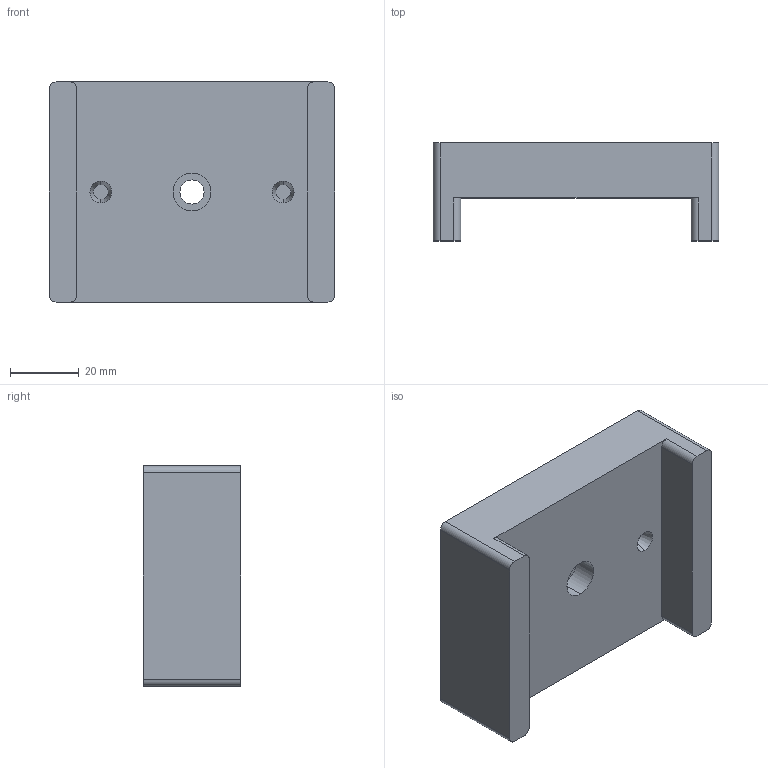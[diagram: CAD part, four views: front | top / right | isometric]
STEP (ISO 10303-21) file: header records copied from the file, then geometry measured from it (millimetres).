
FILE_DESCRIPTION (( 'STEP AP214' ), '1' );
FILE_NAME ('GM3 Press In Fixturing Design Dowel Top.STEP', '2022-03-08T20:00:37', ( '' ), ( '' ), 'SwSTEP 2.0', 'SolidWorks 2018', '' );
FILE_SCHEMA (( 'AUTOMOTIVE_DESIGN' ));
Length unit declared in the file: millimetre
Products named in the file (1): GM3 Press In Fixturing Design Dowel Top
Bounding box: 83 x 28.45 x 64 mm (x, y, z)
Volume: 96126.8 mm3; surface area: 19492.5 mm2
Topology: 1 solids, 1 shells, 33 faces, 80 edges, 52 vertices
Faces by surface type: cylinder 16, plane 13, cone 4
Entity records: 1016 total; most frequent: DIRECTION 184, CARTESIAN_POINT 166, ORIENTED_EDGE 160, EDGE_CURVE 80, AXIS2_PLACEMENT_3D 70, VERTEX_POINT 52, LINE 44, VECTOR 44
